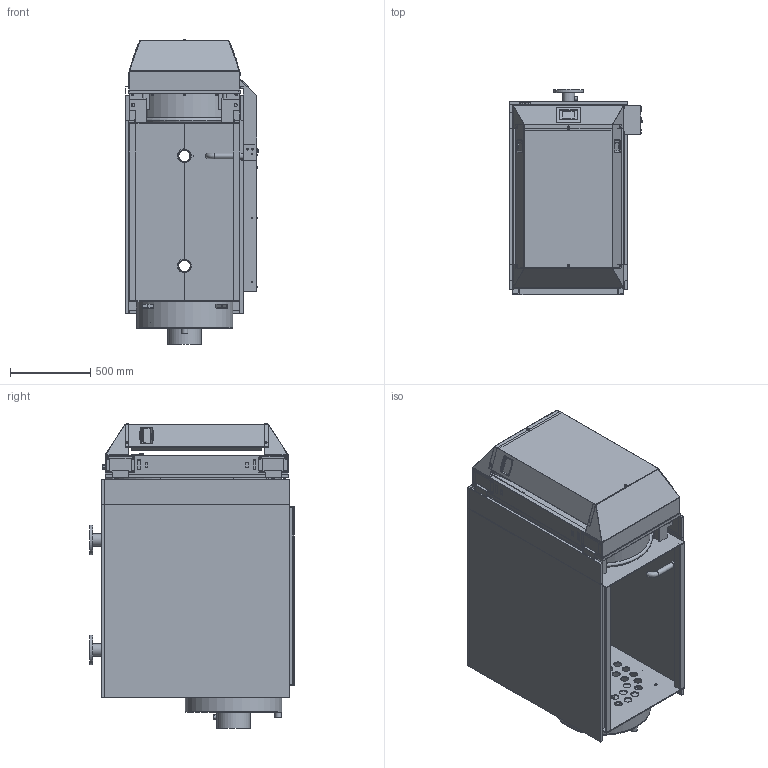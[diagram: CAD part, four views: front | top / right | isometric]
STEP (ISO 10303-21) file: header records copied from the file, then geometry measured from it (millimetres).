
FILE_DESCRIPTION (( 'STEP AP203' ), '1' );
FILE_NAME ('GT3 150.STEP', '2019-03-07T16:05:43', ( '' ), ( '' ), 'SwSTEP 2.0', 'SolidWorks 2019', '' );
FILE_SCHEMA (( 'CONFIG_CONTROL_DESIGN' ));
Products named in the file (1): GT3 150
Bounding box: 830.78 x 1273.5 x 1894.38 mm (x, y, z)
Surface area: 20890024.2 mm2 (no closed solid volume)
Topology: 0 solids, 842 shells, 2136 faces, 9642 edges, 8159 vertices
Faces by surface type: plane 1261, cylinder 557, bspline 128, torus 93, cone 50, sphere 47
Full cylindrical faces by diameter (mm): 1 x1, 1.2 x2, 1.3 x5, 1.8 x1, 2.8 x5, 3 x2, 3.7 x1, 4 x5, 4.2 x14, 5 x10, 5.3 x1, 8 x7, 8.9 x2, 9 x4, 14 x10, 16 x2, 18 x8, 18.8 x2, 20 x3, 20.1 x2, 25 x1, 26.4 x2, 27 x1, 30 x2, 30.4 x1, 32 x1, 33.5 x1, 33.7 x1, 37 x1, 39.5 x1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
Entity records: 104147 total; most frequent: CARTESIAN_POINT 30842, DIRECTION 14466, ORIENTED_EDGE 11030, EDGE_CURVE 9297, VERTEX_POINT 8088, LINE 6076, VECTOR 6076, AXIS2_PLACEMENT_3D 4195
